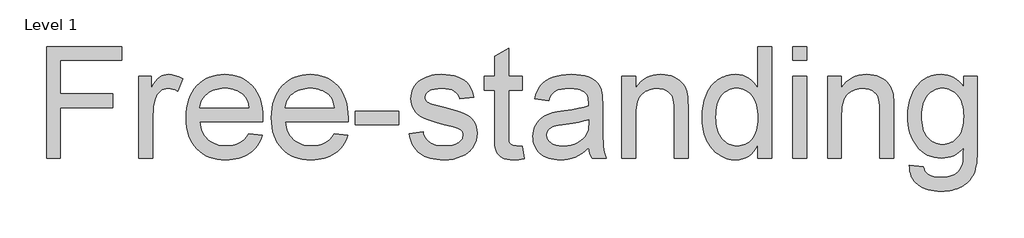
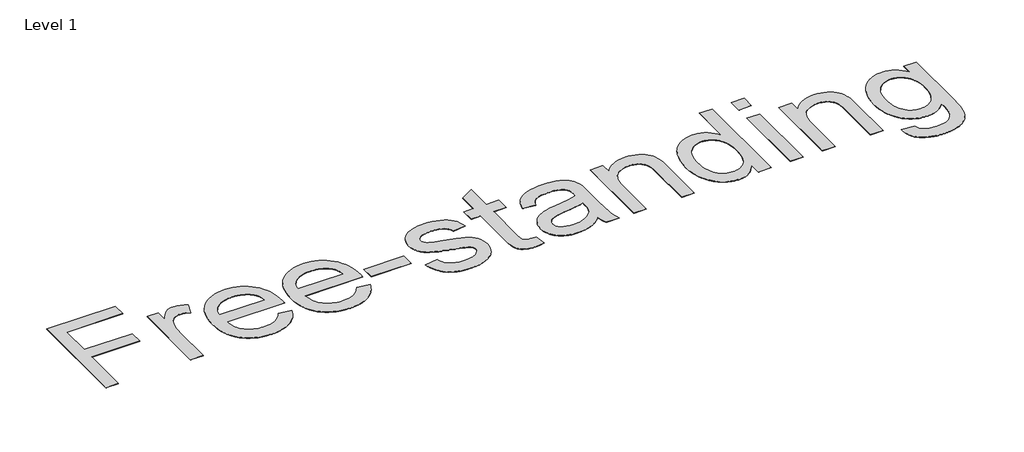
# One storey, part 53 of 80: 1 proxy.
"""IFC4 building model written with IfcOpenShell, lengths in millimetres."""

from ifc_helpers import new_model, si_unit, origin, origin_with_axes, place, context, project, spatial, polyline, outline, extrude, element, save

model = new_model("IFC4")

# Units and contexts
model_context = context("Model", 3, world=origin())
ifc_project = project(units=[si_unit("LENGTHUNIT", "METRE", prefix="MILLI")], contexts=[model_context])

# Site, building, storey
site = spatial("IfcSite", under=ifc_project)
building = spatial("IfcBuilding", under=site)
storey = spatial("IfcBuildingStorey", under=building, Name="Level 1", Elevation=0.0)

# Proxy
placement = place(None, origin())
element("IfcBuildingElementProxy", 1, Name="2500 mm Arial", ObjectType="2500 mm Arial", at=placement, inside=storey, context=model_context, shape_type="SweptSolid", body=[
    extrude(outline(polyline([(42708.6065657, 82741.8832107), (42708.6065657, 85253.2909644), (44395.9586503, 85253.2909644), (44395.9586503, 84939.3649952), (43022.5325349, 84939.3649952), (43022.5325349, 84193.7908183), (44199.7549195, 84193.7908183), (44199.7549195, 83879.8648491), (43022.5325349, 83879.8648491), (43022.5325349, 82741.8832107), (42708.6065657, 82741.8832107)])), origin_with_axes(), (0.0, 0.0, 1.0), 5.0),
    extrude(outline(polyline([(44788.3661118, 82741.8832107), (44788.3661118, 84586.1982798), (45063.0513349, 84586.1982798), (45063.0513349, 84313.3524667), (45114.7847404, 84400.5711564), (45164.5254519, 84471.5417247), (45212.2734691, 84526.2641714), (45258.0287923, 84564.7384968), (45303.8607575, 84591.2949783), (45351.8387011, 84610.2638937), (45401.9626229, 84621.6452429), (45454.2325231, 84625.439026), (45532.1008787, 84619.3843015), (45610.582371, 84601.220128), (45689.677, 84570.9465054), (45769.3847656, 84528.5634339), (45664.538397, 84247.1337076), (45609.3560977, 84275.2996729), (45554.1737984, 84295.4182195), (45498.9914991, 84307.4893474), (45443.8091999, 84311.5130568), (45395.6971327, 84307.6426316), (45350.0759332, 84296.0313561), (45306.9456013, 84276.6792303), (45266.3061372, 84249.5862542), (45229.6903824, 84215.6338118), (45198.6311785, 84175.7032869), (45173.1285256, 84129.7946796), (45153.1824237, 84077.9079898), (45130.9178988, 83992.2221418), (45115.0146667, 83902.5509055), (45105.4727274, 83808.8942809), (45102.292081, 83711.252268), (45102.292081, 82741.8832107), (44788.3661118, 82741.8832107)])), origin_with_axes(), (0.0, 0.0, 1.0), 5.0),
    extrude(outline(polyline([(47256.8542994, 83291.2536568), (47564.6489021, 83252.0129107), (47543.1172671, 83188.5436862), (47517.4565399, 83128.7341212), (47487.6667205, 83072.5842157), (47453.7478089, 83020.0939695), (47415.6998052, 82971.2633828), (47373.5227092, 82926.0924556), (47327.2165211, 82884.5811877), (47276.7812408, 82846.7295793), (47222.4659551, 82812.9591618), (47164.5197507, 82783.6914666), (47102.9426277, 82758.9264937), (47037.734586, 82738.6642432), (46968.8956257, 82722.904715), (46896.4257468, 82711.6479092), (46820.3249491, 82704.8938257), (46740.5932329, 82702.6424645), (46640.5465746, 82706.5272601), (46545.8073806, 82718.1816467), (46456.3756508, 82737.6056245), (46372.2513852, 82764.7991933), (46293.4345838, 82799.7623532), (46219.9252466, 82842.4951043), (46151.7233735, 82892.9974464), (46088.8289647, 82951.2693796), (46032.3533303, 83016.5540633), (45983.4077805, 83088.0946571), (45941.9923153, 83165.8911608), (45908.1069346, 83249.9435744), (45881.7516385, 83340.2518981), (45862.9264271, 83436.8161317), (45851.6313002, 83539.6362752), (45847.8662579, 83648.7123288), (45851.6696212, 83761.5007332), (45863.0797112, 83867.7937211), (45882.0965279, 83967.5912926), (45908.7200713, 84060.8934475), (45942.9503413, 84147.700186), (45984.787338, 84228.0115081), (46034.2310613, 84301.8274136), (46091.2815114, 84369.1479027), (46154.3962662, 84429.2161347), (46222.0329038, 84481.2752691), (46294.1914243, 84525.3253059), (46370.8718277, 84561.3662452), (46452.0741139, 84589.3980868), (46537.798283, 84609.4208308), (46628.044335, 84621.4344772), (46722.8122698, 84625.439026), (46814.4809904, 84621.4440574), (46901.8673346, 84609.4591518), (46984.9713025, 84589.4843091), (47063.792894, 84561.5195293), (47138.3321092, 84525.5648124), (47208.5889481, 84481.6201585), (47274.5634106, 84429.6855675), (47336.2554967, 84369.7610393), (47392.0844636, 84302.5938344), (47440.4695682, 84228.9312131), (47481.4108105, 84148.7731752), (47514.9081906, 84062.1197209), (47540.9617085, 83968.9708501), (47559.5713641, 83869.3265628), (47570.7371575, 83763.186859), (47574.4590886, 83650.5517388), (47572.6196786, 83565.9388799), (46161.7922271, 83565.9388799), (46168.6373231, 83501.3583452), (46179.9755611, 83440.6673963), (46195.8069413, 83383.866033), (46216.1314635, 83330.9542555), (46240.9491278, 83281.9320635), (46270.2599341, 83236.7994573), (46304.0638826, 83195.5564368), (46342.3609731, 83158.2030019), (46384.1548586, 83125.0074), (46428.4491921, 83096.2378783), (46475.2439734, 83071.8944369), (46524.5392028, 83051.9770758), (46576.33488, 83036.4857949), (46630.6310052, 83025.4205942), (46687.4275784, 83018.7814739), (46746.7245994, 83016.5684337), (46833.5600787, 83020.6687851), (46913.8043389, 83032.9698394), (46987.45738, 83053.4715964), (47054.5192021, 83082.1740562), (47114.989805, 83119.8436397), (47168.8691889, 83167.2467676), (47216.1573537, 83224.38344), (47256.8542994, 83291.2536568)]), holes=[polyline([(46161.7922271, 83879.8648491), (47260.5331194, 83879.8648491), (47244.399961, 83968.6930225), (47232.510858, 84008.681029), (47218.0734058, 84045.7183152), (47201.0876043, 84079.8048814), (47181.5534535, 84110.9407273), (47159.4709536, 84139.1258531), (47134.8401044, 84164.3602587), (47093.5108615, 84198.8491957), (47049.2308984, 84228.7396078), (47002.0002152, 84254.031495), (46951.8188118, 84274.7248572), (46898.6866882, 84290.8196945), (46842.6038444, 84302.3160069), (46783.5702805, 84309.2137943), (46721.5859964, 84311.5130568), (46665.2492758, 84309.6784369), (46611.2022374, 84304.1745774), (46559.4448811, 84295.0014782), (46509.9772071, 84282.1591392), (46462.7992153, 84265.6475606), (46417.9109057, 84245.4667423), (46375.3122784, 84221.6166843), (46335.0033332, 84194.0973866), (46298.0283186, 84163.5028254), (46265.4314829, 84130.4269767), (46237.2128263, 84094.8698407), (46213.3723485, 84056.8314172), (46193.9100497, 84016.3117063), (46178.8259299, 83973.310708), (46168.119989, 83927.8284222), (46161.7922271, 83879.8648491)])]), origin_with_axes(), (0.0, 0.0, 1.0), 5.0),
    extrude(outline(polyline([(49179.6508609, 83291.2536568), (49487.4454635, 83252.0129107), (49465.9138285, 83188.5436862), (49440.2531013, 83128.7341212), (49410.4632819, 83072.5842157), (49376.5443704, 83020.0939695), (49338.4963666, 82971.2633828), (49296.3192707, 82926.0924556), (49250.0130826, 82884.5811877), (49199.5778023, 82846.7295793), (49145.2625166, 82812.9591618), (49087.3163122, 82783.6914666), (49025.7391892, 82758.9264937), (48960.5311475, 82738.6642432), (48891.6921872, 82722.904715), (48819.2223082, 82711.6479092), (48743.1215106, 82704.8938257), (48663.3897943, 82702.6424645), (48563.3431361, 82706.5272601), (48468.6039421, 82718.1816467), (48379.1722123, 82737.6056245), (48295.0479466, 82764.7991933), (48216.2311452, 82799.7623532), (48142.721808, 82842.4951043), (48074.519935, 82892.9974464), (48011.6255262, 82951.2693796), (47955.1498918, 83016.5540633), (47906.204342, 83088.0946571), (47864.7888767, 83165.8911608), (47830.9034961, 83249.9435744), (47804.5482, 83340.2518981), (47785.7229885, 83436.8161317), (47774.4278616, 83539.6362752), (47770.6628194, 83648.7123288), (47774.4661827, 83761.5007332), (47785.8762727, 83867.7937211), (47804.8930894, 83967.5912926), (47831.5166327, 84060.8934475), (47865.7469027, 84147.700186), (47907.5838994, 84228.0115081), (47957.0276228, 84301.8274136), (48014.0780728, 84369.1479027), (48077.1928276, 84429.2161347), (48144.8294653, 84481.2752691), (48216.9879858, 84525.3253059), (48293.6683892, 84561.3662452), (48374.8706754, 84589.3980868), (48460.5948445, 84609.4208308), (48550.8408964, 84621.4344772), (48645.6088312, 84625.439026), (48737.2775518, 84621.4440574), (48824.6638961, 84609.4591518), (48907.767864, 84589.4843091), (48986.5894555, 84561.5195293), (49061.1286707, 84525.5648124), (49131.3855095, 84481.6201585), (49197.359972, 84429.6855675), (49259.0520582, 84369.7610393), (49314.881025, 84302.5938344), (49363.2661296, 84228.9312131), (49404.207372, 84148.7731752), (49437.7047521, 84062.1197209), (49463.7582699, 83968.9708501), (49482.3679256, 83869.3265628), (49493.5337189, 83763.186859), (49497.2556501, 83650.5517388), (49495.4162401, 83565.9388799), (48084.5887886, 83565.9388799), (48091.4338845, 83501.3583452), (48102.7721226, 83440.6673963), (48118.6035027, 83383.866033), (48138.9280249, 83330.9542555), (48163.7456892, 83281.9320635), (48193.0564956, 83236.7994573), (48226.860444, 83195.5564368), (48265.1575345, 83158.2030019), (48306.9514201, 83125.0074), (48351.2457535, 83096.2378783), (48398.0405349, 83071.8944369), (48447.3357642, 83051.9770758), (48499.1314415, 83036.4857949), (48553.4275667, 83025.4205942), (48610.2241398, 83018.7814739), (48669.5211609, 83016.5684337), (48756.3566402, 83020.6687851), (48836.6009004, 83032.9698394), (48910.2539415, 83053.4715964), (48977.3157635, 83082.1740562), (49037.7863665, 83119.8436397), (49091.6657504, 83167.2467676), (49138.9539152, 83224.38344), (49179.6508609, 83291.2536568)]), holes=[polyline([(48084.5887886, 83879.8648491), (49183.3296808, 83879.8648491), (49167.1965225, 83968.6930225), (49155.3074195, 84008.681029), (49140.8699672, 84045.7183152), (49123.8841657, 84079.8048814), (49104.350015, 84110.9407273), (49082.267515, 84139.1258531), (49057.6366658, 84164.3602587), (49016.3074229, 84198.8491957), (48972.0274599, 84228.7396078), (48924.7967766, 84254.031495), (48874.6153732, 84274.7248572), (48821.4832496, 84290.8196945), (48765.4004059, 84302.3160069), (48706.366842, 84309.2137943), (48644.3825579, 84311.5130568), (48588.0458373, 84309.6784369), (48533.9987988, 84304.1745774), (48482.2414426, 84295.0014782), (48432.7737686, 84282.1591392), (48385.5957768, 84265.6475606), (48340.7074672, 84245.4667423), (48298.1088398, 84221.6166843), (48257.7998946, 84194.0973866), (48220.82488, 84163.5028254), (48188.2280444, 84130.4269767), (48160.0093877, 84094.8698407), (48136.16891, 84056.8314172), (48116.7066112, 84016.3117063), (48101.6224914, 83973.310708), (48090.9165505, 83927.8284222), (48084.5887886, 83879.8648491)])]), origin_with_axes(), (0.0, 0.0, 1.0), 5.0),
    extrude(outline(polyline([(49654.2186347, 83487.4573876), (49654.2186347, 83801.3833568), (50635.2372885, 83801.3833568), (50635.2372885, 83487.4573876), (49654.2186347, 83487.4573876)])), origin_with_axes(), (0.0, 0.0, 1.0), 5.0),
    extrude(outline(polyline([(50870.6817654, 83291.2536568), (51184.6077346, 83330.494403), (51192.645573, 83293.5912403), (51203.57665, 83258.9106981), (51217.4009656, 83226.4527762), (51234.1185198, 83196.2174747), (51253.7293126, 83168.2047936), (51276.233344, 83142.4147329), (51301.630614, 83118.8472926), (51329.9211227, 83097.5024727), (51361.143191, 83078.5335573), (51395.33514, 83062.0938306), (51432.4969696, 83048.1832927), (51472.62868, 83036.8019435), (51561.8017428, 83021.6268112), (51662.8543283, 83016.5684337), (51763.7919508, 83021.2052797), (51850.7807142, 83035.1158177), (51889.0442738, 83045.5487211), (51923.8206187, 83058.3000476), (51955.1097488, 83073.369797), (51982.9116641, 83090.7579694), (52028.5137031, 83129.462221), (52061.0865881, 83171.38544), (52072.4870978, 83193.5541624), (52080.6303191, 83216.5276265), (52085.5162518, 83240.3058326), (52087.1448961, 83264.8887805), (52085.5066716, 83286.6742924), (52080.5919981, 83307.271852), (52072.4008755, 83326.6814594), (52060.9333039, 83344.9031144), (52028.1688137, 83377.7825678), (51982.2985275, 83405.910212), (51934.5121891, 83424.6108801), (51864.7295732, 83445.7640948), (51659.1755084, 83495.4281641), (51503.400476, 83538.3668908), (51372.6874046, 83578.2782551), (51267.0362941, 83615.1622572), (51186.4471446, 83649.0188971), (51122.5084874, 83684.4850207), (51066.8088541, 83726.197474), (51019.3482446, 83774.156257), (50980.1266589, 83828.3613698), (50949.4123444, 83887.1841679), (50927.4735484, 83948.9960073), (50914.3102707, 84013.796888), (50909.9225115, 84081.5868098), (50913.4480473, 84143.5710939), (50924.0246547, 84203.2177944), (50941.6523336, 84260.5269115), (50966.3310841, 84315.498445), (50997.1028802, 84367.0210849), (51033.0096957, 84413.9835208), (51074.0515308, 84456.3857529), (51120.2283854, 84494.227781), (51160.293034, 84520.4968548), (51206.9105806, 84544.7349133), (51260.0810252, 84566.9419566), (51319.8043678, 84587.1179848), (51383.9346302, 84603.8834403), (51450.325834, 84615.8587657), (51518.9779793, 84623.0439609), (51589.8910659, 84625.439026), (51695.3888923, 84621.5877613), (51794.2188574, 84610.0339674), (51886.3809614, 84590.7776442), (51971.8752043, 84563.8187918), (52048.6705708, 84530.2878808), (52114.7360457, 84491.3153819), (52170.0716292, 84446.9012952), (52214.6773211, 84397.0456206), (52250.8523839, 84340.0047509), (52280.8960802, 84274.0350785), (52304.8084099, 84199.1366035), (52322.589373, 84115.309326), (52008.6634038, 84076.0685798), (51993.6990372, 84128.5109247), (51969.0394472, 84174.860224), (51934.6846338, 84215.1164777), (51890.634597, 84249.2796859), (51836.6977316, 84276.5067857), (51772.6824323, 84295.954714), (51698.5886992, 84307.6234711), (51614.4165323, 84311.5130568), (51516.7745194, 84307.7959158), (51434.1543547, 84296.6444928), (51366.556038, 84278.0587878), (51338.3900728, 84265.9780796), (51313.9795696, 84252.0388009), (51274.5472182, 84221.0753996), (51246.381253, 84187.6594517), (51229.4816738, 84151.7909572), (51223.8484807, 84113.469916), (51226.1860643, 84088.6762024), (51233.1988148, 84065.1854042), (51244.8867323, 84042.9975213), (51261.2498169, 84022.1125539), (51282.5946369, 84001.9173652), (51309.2277605, 83983.6382286), (51341.1491878, 83967.275144), (51378.3589187, 83952.8281115), (51468.94986, 83928.7624976), (51648.7521852, 83885.9962157), (51926.1198811, 83803.9891876), (52029.5675317, 83769.0787191), (52109.5243841, 83738.2302809), (52174.0570175, 83706.1555695), (52231.2320109, 83667.566281), (52281.0493644, 83622.4624156), (52323.509078, 83570.8439731), (52357.4423599, 83512.6343116), (52381.6804185, 83447.7567889), (52396.2232536, 83376.2114051), (52401.0708653, 83297.99816), (52395.3801907, 83219.4400257), (52378.3081669, 83143.1811537), (52349.8547938, 83069.2215443), (52310.0200715, 82997.5611973), (52285.9975688, 82963.3069767), (52259.4554577, 82931.0550304), (52230.3937381, 82900.8053585), (52198.81241, 82872.557961), (52128.0909286, 82822.0699893), (52047.2910133, 82779.5911152), (51958.616124, 82745.9260805), (51864.2697207, 82721.8796272), (51764.2518032, 82707.4517552), (51658.5623717, 82702.6424645), (51571.4107438, 82704.9608875), (51489.6049012, 82711.9161565), (51413.1448438, 82723.5082714), (51342.0305717, 82739.7372324), (51276.2620848, 82760.6030393), (51215.8393831, 82786.1056922), (51160.7624667, 82816.2451911), (51111.0313356, 82851.0215359), (51066.0999148, 82890.3580847), (51025.4221296, 82934.1781952), (50988.99798, 82982.4818676), (50956.8274659, 83035.2691018), (50928.9105874, 83092.5398978), (50905.2473445, 83154.2942557), (50885.8377372, 83220.5321753), (50870.6817654, 83291.2536568)])), origin_with_axes(), (0.0, 0.0, 1.0), 5.0),
    extrude(outline(polyline([(53421.3302653, 83003.6925639), (53460.5710114, 82732.6861608), (53336.2575539, 82710.1533886), (53279.2741657, 82704.5201955), (53225.7396712, 82702.6424645), (53145.6103741, 82705.899753), (53075.0613373, 82715.6716185), (53014.0925608, 82731.958061), (52962.7040446, 82754.7590805), (52919.5545523, 82782.8484037), (52883.3028473, 82814.9997572), (52853.9489298, 82851.2131411), (52831.4927997, 82891.4885554), (52814.8614678, 82945.4829024), (52802.981945, 83022.8530845), (52795.8542314, 83123.5991017), (52793.4783268, 83247.720954), (52793.4783268, 84272.2723106), (52558.0338499, 84272.2723106), (52558.0338499, 84586.1982798), (52793.4783268, 84586.1982798), (52793.4783268, 85034.4011773), (53107.4042961, 85218.9553115), (53107.4042961, 84586.1982798), (53421.3302653, 84586.1982798), (53421.3302653, 84272.2723106), (53107.4042961, 84272.2723106), (53107.4042961, 83256.9180039), (53111.5429685, 83153.6044769), (53116.7163091, 83118.7323295), (53123.9589858, 83095.049926), (53133.5200856, 83077.9012601), (53145.6486951, 83062.6303252), (53177.6084435, 83037.7216485), (53198.2060031, 83028.467117), (53222.9039141, 83021.8567374), (53284.6007904, 83016.5684337), (53344.5348988, 83013.3494663), (53421.3302653, 83003.6925639)])), origin_with_axes(), (0.0, 0.0, 1.0), 5.0),
    extrude(outline(polyline([(54912.4786191, 82977.3276876), (54838.0399966, 82907.4684295), (54762.4900639, 82848.7222734), (54685.8288211, 82801.0892193), (54608.056268, 82764.569267), (54528.2910209, 82737.4762909), (54445.6516956, 82718.1241652), (54360.1382922, 82706.5128897), (54271.7508108, 82702.6424645), (54199.7120435, 82704.9704678), (54131.9748131, 82711.9544775), (54068.5391196, 82723.5944938), (54009.404963, 82739.8905165), (53954.5723432, 82760.8425458), (53904.0412603, 82786.4505815), (53857.8117143, 82816.7146238), (53815.8837051, 82851.6346726), (53778.5925419, 82890.1760597), (53746.2735338, 82931.3041171), (53718.9266808, 82975.0188449), (53696.5519829, 83021.3202428), (53679.1494401, 83070.2083111), (53666.7190524, 83121.6830497), (53659.2608197, 83175.7444585), (53656.7747422, 83232.3925376), (53660.5302042, 83298.9561861), (53671.7965903, 83362.5307934), (53690.5739005, 83423.1163595), (53716.8621347, 83480.7128843), (53749.262575, 83534.0557736), (53786.3765034, 83581.880433), (53828.2039198, 83624.1868624), (53874.7448243, 83660.975062), (53925.156154, 83692.9348103), (53978.5948459, 83720.7558862), (54035.0609, 83744.4382896), (54094.5543164, 83763.9820206), (54207.5247458, 83788.0476345), (54366.1738562, 83811.1935433), (54538.8484677, 83834.9525888), (54687.150897, 83860.8576127), (54811.0811441, 83888.9086148), (54910.6392091, 83919.1055952), (54912.4786191, 83989.0031743), (54907.0753522, 84065.1087621), (54900.3212687, 84098.6205126), (54890.8655518, 84129.1049008), (54878.7082015, 84156.5619268), (54863.8492178, 84180.9915906), (54846.2886007, 84202.393892), (54826.0263502, 84220.7688313), (54795.1204305, 84242.0370091), (54760.650654, 84260.4694299), (54722.6170206, 84276.0660937), (54681.0195304, 84288.8270004), (54635.8581834, 84298.7521501), (54587.1329796, 84305.8415427), (54478.9910014, 84311.5130568), (54378.4365894, 84307.7384342), (54291.9843205, 84296.4145665), (54219.6341948, 84277.5414538), (54188.7474356, 84265.2739305), (54161.3862122, 84251.1190959), (54136.6212394, 84234.559616), (54113.5232318, 84215.0781567), (54072.3281126, 84167.3492999), (54037.8008545, 84107.9325256), (54009.9414576, 84036.8278337), (53696.0154883, 84076.0685798), (53719.9086575, 84166.506237), (53750.5080089, 84247.7468443), (53787.8135424, 84319.7904017), (53831.8252582, 84382.6369092), (53884.4400477, 84437.5509612), (53947.5548025, 84485.797152), (54021.1695226, 84527.3754816), (54105.284208, 84562.2859501), (54198.1935723, 84589.9154208), (54298.1923292, 84609.650757), (54405.2804787, 84621.4919587), (54519.4580209, 84625.439026), (54631.0680533, 84621.9518112), (54731.6799468, 84611.490167), (54821.2937016, 84594.0540933), (54899.9093176, 84569.64359), (54968.1782524, 84539.9639437), (55026.7519638, 84506.7204405), (55075.6304518, 84469.9130804), (55114.8137164, 84429.5418635), (55146.5818595, 84384.6104428), (55173.2149831, 84334.122471), (55194.7130872, 84278.0779483), (55211.0761718, 84216.4768747), (55217.782354, 84169.4186361), (55222.5724842, 84107.9516861), (55226.4045883, 83941.7916516), (55226.4045883, 83551.2236001), (55230.3899766, 83211.0093966), (55235.3717119, 83091.5435508), (55242.3461414, 83005.8385422), (55252.23297, 82937.7228915), (55265.9519028, 82871.0251194), (55283.5029396, 82805.7452258), (55304.8860806, 82741.8832107), (54990.9601114, 82741.8832107), (54963.0623934, 82794.306395), (54940.6829053, 82851.0215359), (54923.8216472, 82912.0286334), (54912.4786191, 82977.3276876)]), holes=[polyline([(54912.4786191, 83605.179626), (54817.5957211, 83578.0100078), (54701.5596085, 83552.9097259), (54564.3702811, 83529.8787801), (54406.027739, 83508.9171706), (54243.1633141, 83484.8515568), (54182.5969085, 83471.7840817), (54135.9410409, 83458.026828), (54098.5205442, 83442.27688), (54065.6602514, 83423.2313226), (54037.3601625, 83400.8901556), (54013.6202775, 83375.253379), (53994.8429673, 83347.2406979), (53981.4306029, 83317.7718173), (53973.3831843, 83286.8467371), (53970.7007114, 83254.4654573), (53976.5446702, 83205.6827719), (53994.0765465, 83161.115401), (54023.2963404, 83120.7633447), (54064.2040518, 83084.6266028), (54088.945074, 83068.6754695), (54116.4164704, 83054.8511539), (54179.5503857, 83033.582976), (54253.6057978, 83020.8220693), (54338.5827066, 83016.5684337), (54425.3415438, 83021.2627613), (54507.1952877, 83035.3457439), (54584.1439384, 83058.8173816), (54656.1874957, 83091.6776744), (54721.1799816, 83131.2058284), (54776.9754175, 83174.6810496), (54823.5738036, 83222.103338), (54860.9751397, 83273.4726937), (54882.7031701, 83319.4579431), (54898.2231917, 83375.253379), (54907.5352047, 83440.8590015), (54910.6392091, 83516.2748105), (54912.4786191, 83605.179626)])]), origin_with_axes(), (0.0, 0.0, 1.0), 5.0),
    extrude(outline(polyline([(55658.0527959, 82741.8832107), (55658.0527959, 84586.1982798), (55971.9787652, 84586.1982798), (55971.9787652, 84328.6808832), (56023.7696523, 84398.2335729), (56081.0404483, 84458.5125707), (56143.7911532, 84509.5178765), (56212.021767, 84551.2494903), (56285.7322897, 84583.7074122), (56364.9227213, 84606.8916421), (56449.5930617, 84620.80218), (56539.7433111, 84625.439026), (56618.7421374, 84621.7027245), (56694.4836753, 84610.4938199), (56766.9679246, 84591.8123124), (56836.1948855, 84565.6582018), (56899.5395665, 84533.4302061), (56954.3769764, 84496.5270435), (57000.7071152, 84454.9487138), (57038.5299828, 84408.6952172), (57069.5891867, 84357.824035), (57095.6283342, 84302.392649), (57116.6474253, 84242.401059), (57132.6464599, 84177.8492652), (57139.8891367, 84126.460749), (57145.0624773, 84058.7474692), (57149.2011497, 83874.3466192), (57149.2011497, 82741.8832107), (56835.2751805, 82741.8832107), (56835.2751805, 83832.0401897), (56833.0142391, 83919.0672742), (56826.2314148, 83994.3681201), (56814.9267077, 84057.9427274), (56799.1001177, 84109.7910961), (56777.544532, 84153.4579225), (56749.0528379, 84192.4879029), (56713.6250353, 84226.8810374), (56671.2611243, 84256.6373258), (56623.4173044, 84280.6454581), (56571.5497752, 84297.794124), (56515.6585367, 84308.0833236), (56455.7435888, 84311.5130568), (56407.2339408, 84309.5874244), (56360.4199989, 84303.8105275), (56315.3017631, 84294.1823659), (56271.8792333, 84280.7029397), (56230.1524096, 84263.3722488), (56190.121292, 84242.1902933), (56151.7858804, 84217.1570732), (56115.146175, 84188.2725884), (56081.5913133, 84154.0039973), (56052.5104332, 84112.8184583), (56027.9035346, 84064.7159714), (56007.7706176, 84009.6965366), (55992.1116822, 83947.7601538), (55980.9267283, 83878.9068231), (55974.2157559, 83803.1365444), (55971.9787652, 83720.4493178), (55971.9787652, 82741.8832107), (55658.0527959, 82741.8832107)])), origin_with_axes(), (0.0, 0.0, 1.0), 5.0),
    extrude(outline(polyline([(58718.8309958, 82741.8832107), (58718.8309958, 83038.0282168), (58674.3498473, 82959.4221811), (58624.9061239, 82891.2969502), (58570.4998257, 82833.652524), (58511.1309527, 82786.4889026), (58446.7995049, 82749.8060859), (58377.5054822, 82723.604074), (58303.2488846, 82707.8828669), (58224.0297123, 82702.6424645), (58171.6831701, 82704.5393561), (58120.409617, 82710.2300307), (58070.2090531, 82719.7144884), (58021.0814783, 82732.9927291), (57973.0268927, 82750.064753), (57926.0452962, 82770.9305599), (57880.1366889, 82795.5901499), (57835.3010707, 82824.0435229), (57792.247381, 82855.8930983), (57751.6845589, 82890.7412951), (57713.6126045, 82928.5881134), (57678.0315178, 82969.4335531), (57644.9412987, 83013.2776143), (57614.3419474, 83060.120297), (57586.2334637, 83109.9616012), (57560.6158477, 83162.8015268), (57537.7669269, 83218.1514807), (57517.9645289, 83275.5228694), (57501.2086536, 83334.9156931), (57487.4993011, 83396.3299517), (57476.8364714, 83459.7656452), (57469.2201645, 83525.2227736), (57463.1271189, 83662.2013353), (57468.7411515, 83796.6698687), (57485.5832491, 83924.7771093), (57513.6534117, 84046.5230571), (57552.9516394, 84161.9077121), (57576.8064876, 84216.3714918), (57603.4587717, 84267.5588225), (57632.9084918, 84315.4697043), (57665.155648, 84360.104137), (57700.2002401, 84401.4621206), (57738.0422683, 84439.5436553), (57778.6817324, 84474.3487409), (57822.1186326, 84505.8773775), (57867.6104986, 84533.8996389), (57914.4148602, 84558.1855987), (57962.5317175, 84578.7352571), (58011.9610705, 84595.5486139), (58062.7029191, 84608.6256692), (58114.7572634, 84617.966423), (58168.1241034, 84623.5708752), (58222.803439, 84625.439026), (58301.8214259, 84620.0932407), (58376.394172, 84604.055885), (58446.5216773, 84577.3269588), (58512.2039419, 84539.9064621), (58572.7128659, 84493.9403732), (58627.3203495, 84441.5746705), (58676.0263928, 84382.8093538), (58718.8309958, 84317.6444233), (58718.8309958, 85253.2909644), (59032.756965, 85253.2909644), (59032.756965, 82741.8832107), (58718.8309958, 82741.8832107)]), holes=[polyline([(57777.0530882, 83663.4276086), (57779.2661283, 83584.749721), (57785.9052487, 83511.1972726), (57796.9704493, 83442.7702634), (57812.4617302, 83379.4686936), (57832.3790913, 83321.2925629), (57856.7225327, 83268.2418716), (57885.4920544, 83220.3166195), (57918.6876563, 83177.5168066), (57954.8914599, 83139.7945317), (57992.6855868, 83107.1018935), (58032.0700369, 83079.4388919), (58073.0448101, 83056.805527), (58115.6099066, 83039.2017987), (58159.7653263, 83026.627707), (58205.5110692, 83019.0832521), (58252.8471353, 83016.5684337), (58300.5233006, 83018.9682889), (58346.3696362, 83026.1678546), (58390.3861421, 83038.1671306), (58432.5728183, 83054.966117), (58472.9296648, 83076.5648138), (58511.4566816, 83102.963221), (58548.1538686, 83134.1613387), (58583.0212259, 83170.1591667), (58614.8516407, 83211.0908288), (58642.4380003, 83257.0904486), (58665.7803045, 83308.1580261), (58684.8785533, 83364.2935613), (58699.7327469, 83425.4970541), (58710.3428852, 83491.7685047), (58716.7089682, 83563.107913), (58718.8309958, 83639.5152789), (58716.6706471, 83723.3904578), (58710.189601, 83801.4983199), (58699.3878576, 83873.8388654), (58684.2654167, 83940.4120941), (58664.8222784, 84001.2180062), (58641.0584428, 84056.2566016), (58612.9739097, 84105.5278802), (58580.5686793, 84149.0318422), (58545.001963, 84187.1133769), (58507.4329722, 84220.1173736), (58467.8617071, 84248.0438323), (58426.2881676, 84270.8927531), (58382.7123536, 84288.664136), (58337.1342653, 84301.3579809), (58289.5539026, 84308.9742878), (58239.9712654, 84311.5130568), (58191.4855681, 84309.0748805), (58145.0500465, 84301.7603518), (58100.6647005, 84289.5694706), (58058.3295303, 84272.5022369), (58018.0445358, 84250.5586507), (57979.809717, 84223.738712), (57943.6250738, 84192.0424208), (57909.4906064, 84155.4697771), (57878.4505631, 84113.6471508), (57851.5491922, 84066.2009117), (57828.7864937, 84013.1310599), (57810.1624677, 83954.4375952), (57795.6771142, 83890.1205177), (57785.3304331, 83820.1798275), (57779.1224244, 83744.6155244), (57777.0530882, 83663.4276086)])]), origin_with_axes(), (0.0, 0.0, 1.0), 5.0),
    extrude(outline(polyline([(59503.6459189, 84939.3649952), (59503.6459189, 85253.2909644), (59817.5718881, 85253.2909644), (59817.5718881, 84939.3649952), (59503.6459189, 84939.3649952)])), origin_with_axes(), (0.0, 0.0, 1.0), 5.0),
    extrude(outline(polyline([(59503.6459189, 82741.8832107), (59503.6459189, 84586.1982798), (59817.5718881, 84586.1982798), (59817.5718881, 82741.8832107), (59503.6459189, 82741.8832107)])), origin_with_axes(), (0.0, 0.0, 1.0), 5.0),
    extrude(outline(polyline([(60288.4608419, 82741.8832107), (60288.4608419, 84586.1982798), (60602.3868111, 84586.1982798), (60602.3868111, 84328.6808832), (60654.1776983, 84398.2335729), (60711.4484943, 84458.5125707), (60774.1991992, 84509.5178765), (60842.429813, 84551.2494903), (60916.1403357, 84583.7074122), (60995.3307672, 84606.8916421), (61080.0011077, 84620.80218), (61170.151357, 84625.439026), (61249.1501834, 84621.7027245), (61324.8917212, 84610.4938199), (61397.3759706, 84591.8123124), (61466.6029315, 84565.6582018), (61529.9476125, 84533.4302061), (61584.7850224, 84496.5270435), (61631.1151612, 84454.9487138), (61668.9380288, 84408.6952172), (61699.9972327, 84357.824035), (61726.0363801, 84302.392649), (61747.0554712, 84242.401059), (61763.0545059, 84177.8492652), (61770.2971827, 84126.460749), (61775.4705232, 84058.7474692), (61779.6091957, 83874.3466192), (61779.6091957, 82741.8832107), (61465.6832265, 82741.8832107), (61465.6832265, 83832.0401897), (61463.422285, 83919.0672742), (61456.6394608, 83994.3681201), (61445.3347536, 84057.9427274), (61429.5081636, 84109.7910961), (61407.952578, 84153.4579225), (61379.4608838, 84192.4879029), (61344.0330813, 84226.8810374), (61301.6691703, 84256.6373258), (61253.8253504, 84280.6454581), (61201.9578212, 84297.794124), (61146.0665826, 84308.0833236), (61086.1516348, 84311.5130568), (61037.6419868, 84309.5874244), (60990.8280449, 84303.8105275), (60945.709809, 84294.1823659), (60902.2872793, 84280.7029397), (60860.5604556, 84263.3722488), (60820.5293379, 84242.1902933), (60782.1939264, 84217.1570732), (60745.5542209, 84188.2725884), (60711.9993592, 84154.0039973), (60682.9184791, 84112.8184583), (60658.3115806, 84064.7159714), (60638.1786636, 84009.6965366), (60622.5197281, 83947.7601538), (60611.3347742, 83878.9068231), (60604.6238019, 83803.1365444), (60602.3868111, 83720.4493178), (60602.3868111, 82741.8832107), (60288.4608419, 82741.8832107)])), origin_with_axes(), (0.0, 0.0, 1.0), 5.0),
    extrude(outline(polyline([(62132.7759111, 82584.9202261), (62446.7018803, 82545.6794799), (62459.9609605, 82492.7964431), (62481.3441015, 82447.5776145), (62510.8513032, 82410.0229942), (62548.4825656, 82380.1325821), (62609.3747, 82349.5523912), (62680.4602314, 82327.7093978), (62761.7391597, 82314.6036017), (62853.2114849, 82310.235003), (62951.2367082, 82315.1784173), (63037.4590509, 82330.0086602), (63076.1441419, 82341.1313424), (63111.8785128, 82354.7257318), (63144.6621635, 82370.7918283), (63174.4950941, 82389.329632), (63226.61171, 82432.8623347), (63269.5312762, 82484.3658141), (63303.2537924, 82543.8400699), (63327.7792587, 82611.2851024), (63337.8576925, 82666.812291), (63344.793801, 82746.3284514), (63348.5875841, 82849.8335836), (63349.2390418, 82977.3276876), (63298.5211438, 82922.1453883), (63244.7758836, 82874.3207289), (63188.0032611, 82833.8537095), (63128.2032763, 82800.7443299), (63065.3759293, 82774.9925902), (62999.5212201, 82756.5984905), (62930.6391486, 82745.5620306), (62858.7297149, 82741.8832107), (62770.0979368, 82746.165587), (62686.6107585, 82759.0127161), (62608.26818, 82780.4245978), (62535.0702012, 82810.4012323), (62467.0168222, 82848.9426194), (62404.108043, 82896.0487593), (62346.3438636, 82951.7196518), (62293.7242839, 83015.9552971), (62246.8049592, 83086.178605), (62206.1415444, 83159.8124856), (62171.7340395, 83236.8569389), (62143.5824447, 83317.3119648), (62121.6867598, 83401.1775634), (62106.0469848, 83488.4537346), (62096.6631199, 83579.1404786), (62093.5351649, 83673.2377951), (62099.1491974, 83802.5138275), (62115.991295, 83926.6931614), (62144.0614577, 84045.7757968), (62183.3596854, 84159.7617338), (62207.0708296, 84213.8949945), (62233.292002, 84264.8571891), (62262.0232026, 84312.6483176), (62293.2644315, 84357.2683799), (62327.0156885, 84398.7173761), (62363.2769737, 84436.9953061), (62402.0482871, 84472.1021699), (62443.3296287, 84504.0379676), (62486.8000597, 84532.4913406), (62532.1386415, 84557.1509306), (62579.3453741, 84578.0167375), (62628.4202575, 84595.0887614), (62679.3632916, 84608.3670021), (62732.1744764, 84617.8514598), (62786.853812, 84623.5421344), (62843.4012984, 84625.439026), (62918.5009588, 84621.1470694), (62990.2092071, 84608.2711995), (63058.5260432, 84586.8114165), (63123.4514672, 84556.7677202), (63184.9854791, 84518.1401107), (63243.1280788, 84470.928588), (63297.8792664, 84415.1331521), (63349.2390418, 84350.7538029), (63349.2390418, 84586.1982798), (63663.165011, 84586.1982798), (63663.165011, 82993.8823774), (63657.8000652, 82794.3638765), (63651.093883, 82706.3739759), (63641.7052279, 82626.2303084), (63629.6341, 82553.9328742), (63614.8804991, 82489.481673), (63597.4444254, 82432.8767051), (63577.3258788, 82384.1179704), (63554.2997232, 82340.4559341), (63528.1408224, 82299.1410616), (63498.8491766, 82260.1733528), (63466.4247857, 82223.5528079), (63430.8676496, 82189.2794267), (63392.1777684, 82157.3532093), (63350.3551421, 82127.7741556), (63305.3997707, 82100.5422657), (63257.5320001, 82076.112602), (63206.9721765, 82054.9402268), (63153.7202996, 82037.02514), (63097.7763697, 82022.3673418), (63039.1403865, 82010.966832), (62977.8123503, 82002.8236108), (62913.7922609, 81997.937678), (62847.0801184, 81996.3090338), (62768.2393663, 81998.6035061), (62693.2786196, 82005.4869231), (62622.1978784, 82016.9592848), (62554.9971426, 82033.0205912), (62491.6764122, 82053.6708423), (62432.2356872, 82078.910038), (62376.6749677, 82108.7381784), (62324.9942535, 82143.1552635), (62278.4677194, 82182.1804538), (62238.36954, 82225.8329098), (62204.6997152, 82274.1126316), (62177.4582451, 82327.019619), (62156.6451296, 82384.5538722), (62142.2603687, 82446.7153911), (62134.3039626, 82513.5041757), (62132.7759111, 82584.9202261)]), holes=[polyline([(62407.4611341, 83694.6975782), (62409.554421, 83614.2760832), (62415.8342816, 83539.4782009), (62426.300716, 83470.3039315), (62440.9537241, 83406.7532749), (62459.793306, 83348.826231), (62482.8194616, 83296.5228), (62510.0321909, 83249.8429817), (62541.431494, 83208.7867762), (62575.992283, 83172.9326521), (62612.6894701, 83141.8590778), (62651.5230552, 83115.5660535), (62692.4930383, 83094.053579), (62735.5994195, 83077.3216544), (62780.8421987, 83065.3702797), (62828.221376, 83058.1994548), (62877.7369513, 83055.8091799), (62926.7064518, 83058.1850844), (62973.6736778, 83065.3127981), (63018.6386295, 83077.1923209), (63061.6013068, 83093.8236527), (63102.5617097, 83115.2067937), (63141.5198381, 83141.3417438), (63178.4756922, 83172.2285029), (63213.4292719, 83207.8670712), (63245.2596867, 83248.5927577), (63272.8460462, 83294.7408716), (63296.1883504, 83346.3114127), (63315.2865993, 83403.3043812), (63330.1407929, 83465.719777), (63340.7509312, 83533.5576001), (63347.1170141, 83606.8178505), (63349.2390418, 83685.5005283), (63347.0547424, 83760.6816209), (63340.5018444, 83831.1013242), (63329.5803477, 83896.7596381), (63314.2902522, 83957.6565627), (63294.6315581, 84013.7920978), (63270.6042653, 84065.1662436), (63242.2083738, 84111.7790001), (63209.4438836, 84153.6303672), (63173.6041299, 84190.6341225), (63135.9824477, 84222.7040439), (63096.5788371, 84249.8401311), (63055.3932981, 84272.0423844), (63012.4258307, 84289.3108035), (62967.6764349, 84301.6453887), (62921.1451107, 84309.0461397), (62872.831858, 84311.5130568), (62825.2993966, 84309.0844608), (62779.5776043, 84301.7986728), (62735.6664813, 84289.6556929), (62693.5660275, 84272.655521), (62653.2762428, 84250.7981572), (62614.7971273, 84224.0836013), (62578.1286811, 84192.5118536), (62543.270904, 84156.0829138), (62511.4404892, 84114.8734242), (62483.8541297, 84068.9600267), (62460.5118255, 84018.3427215), (62441.4135766, 83963.0215084), (62426.559383, 83902.9963876), (62415.9492447, 83838.2673589), (62409.5831618, 83768.8344224), (62407.4611341, 83694.6975782)])]), origin_with_axes(), (0.0, 0.0, 1.0), 5.0),
])

save(model, "model.ifc")
